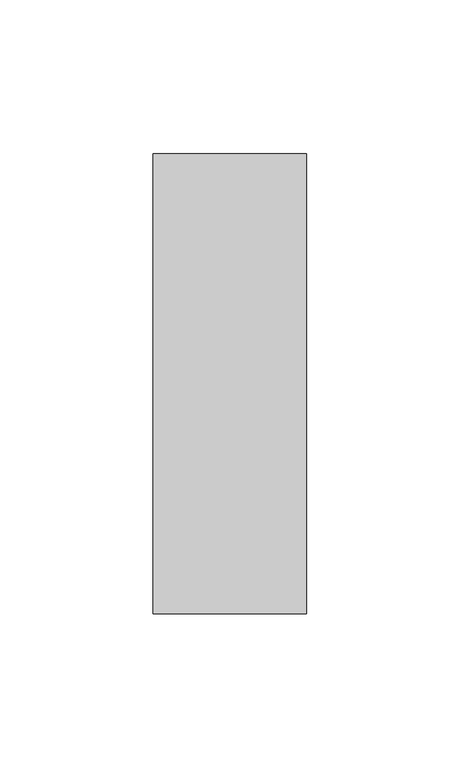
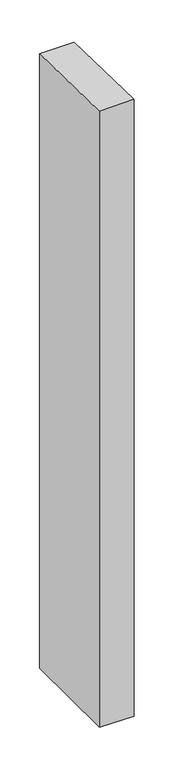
"""IFC4 building model written with IfcOpenShell, lengths in millimetres: member geometry, Прямоугольный импост : 50 x 150 мм."""

from ifc_helpers import new_model, si_unit, origin, place, context, project, spatial, faceted_brep, source, transform, mapped, element, save


def member_1b89f8b0(model_context):
    return source(origin(), model_context, "Body", "Brep", [
        faceted_brep([(-25.0, 75.0, -1.9269974), (25.0, 75.0, -1.3789929), (25.0, 75.0, -942.407541), (-25.0, 75.0, -941.8225873), (-25.0, -75.0, 1.3789929), (-25.0, -75.0, -941.3729782), (25.0, -75.0, 1.9269974), (25.0, -75.0, -941.9579319)], [[[0, 1, 2, 3]], [[4, 0, 3, 5]], [[6, 4, 5, 7]], [[1, 6, 7, 2]], [[1, 0, 4, 6]], [[2, 7, 5, 3]]]),
    ])


if __name__ == "__main__":
    model = new_model("IFC4")
    model_context = context("Model", 3, world=origin())
    ifc_project = project(units=[si_unit("LENGTHUNIT", "METRE", prefix="MILLI")], contexts=[model_context])
    site = spatial("IfcSite", under=ifc_project)
    building = spatial("IfcBuilding", under=site)
    placement = place(None, origin())
    member_shape = member_1b89f8b0(model_context)
    element("IfcMember", 1, ObjectType="Прямоугольный импост : 50 x 150 мм", at=placement, inside=building, context=model_context, shape_type="MappedRepresentation", body=[
        mapped(member_shape, transform((0.0, 0.0, 0.0), x_axis=(1.0, 0.0, 0.0), y_axis=(0.0, 1.0, 0.0), z_axis=(0.0, 0.0, 1.0))),
    ])
    save(model, "model.ifc")
